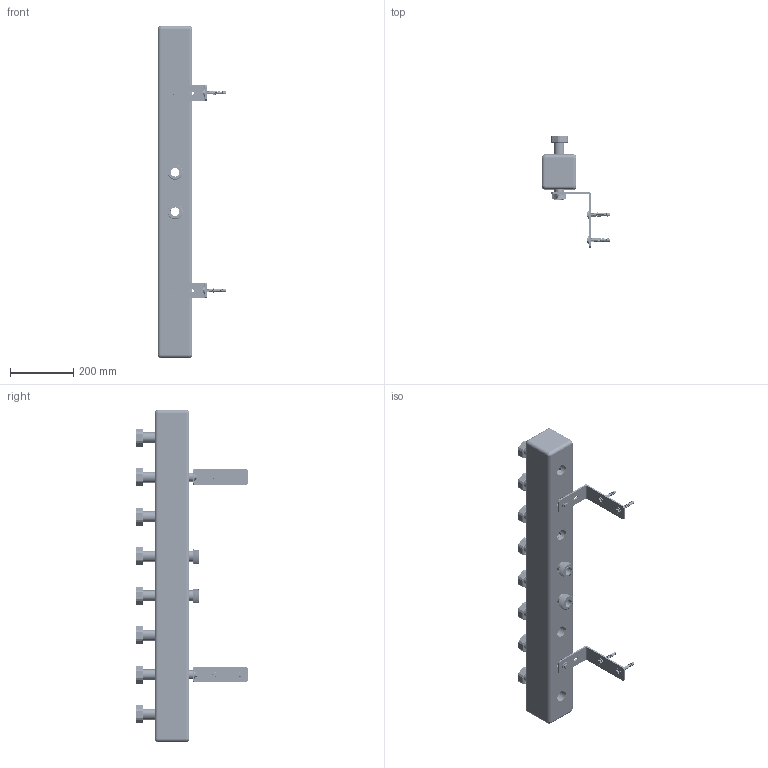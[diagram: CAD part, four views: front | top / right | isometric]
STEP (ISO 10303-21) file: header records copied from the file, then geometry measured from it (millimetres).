
FILE_DESCRIPTION (( 'STEP AP214' ), '1' );
FILE_NAME ('77312_rozdzielacz_ksv_125-4.STEP', '2022-04-21T10:03:36', ( '' ), ( '' ), 'SwSTEP 2.0', 'SolidWorks 2021', '' );
FILE_SCHEMA (( 'AUTOMOTIVE_DESIGN' ));
Length unit declared in the file: millimetre
Products named in the file (23): 08_013_020; 08_001_018; 08_001_025; ZIDNI_VLOZEK_10; SCREW_DIN_933-M8X25-8_8-A; 08_013_009; 08_001_033_SESTAVLJEN_ASM; DIN9021-8; 08_001_044; 08_013_021; DIN571_8X60_CUZN; 08_001_017; 08_001_006; 08_001_033; GUMA_NOSILCA_M8; 08_001_042; 08_001_038; 08_013_017; 08_013_010; 08_013_004; 08_013_400_IZOLACIJA_ASM; 08_013_015; 77312_rozdzielacz_ksv_125-4
Assembly tree (65 placements, depth 3):
  77312_rozdzielacz_ksv_125-4
    08_013_009
    08_013_010
    08_013_004
    08_001_025  x2
    08_001_006  x2
    08_013_015
    08_013_020  x4
    08_013_021  x4
    08_001_017  x8
    08_001_018  x8
    08_001_038  x4
    08_013_017  x6
    08_001_033_SESTAVLJEN_ASM  x2
      08_001_033
      DIN9021-8
      SCREW_DIN_933-M8X25-8_8-A
      GUMA_NOSILCA_M8
      DIN571_8X60_CUZN
      ZIDNI_VLOZEK_10
    08_013_400_IZOLACIJA_ASM
      08_001_042  x2
      08_001_044  x8
Bounding box: 216.91 x 354 x 1050 mm (x, y, z)
Volume: 9636557.7 mm3; surface area: 1982878.6 mm2
Topology: 70 solids, 74 shells, 4728 faces, 13438 edges, 8854 vertices
Faces by surface type: cylinder 2140, plane 1572, cone 844, bspline 172
Entity records: 53546 total; most frequent: CARTESIAN_POINT 21433, ORIENTED_EDGE 6780, DIRECTION 6438, EDGE_CURVE 3392, AXIS2_PLACEMENT_3D 2580, VERTEX_POINT 2234, CIRCLE 1360, EDGE_LOOP 1322
